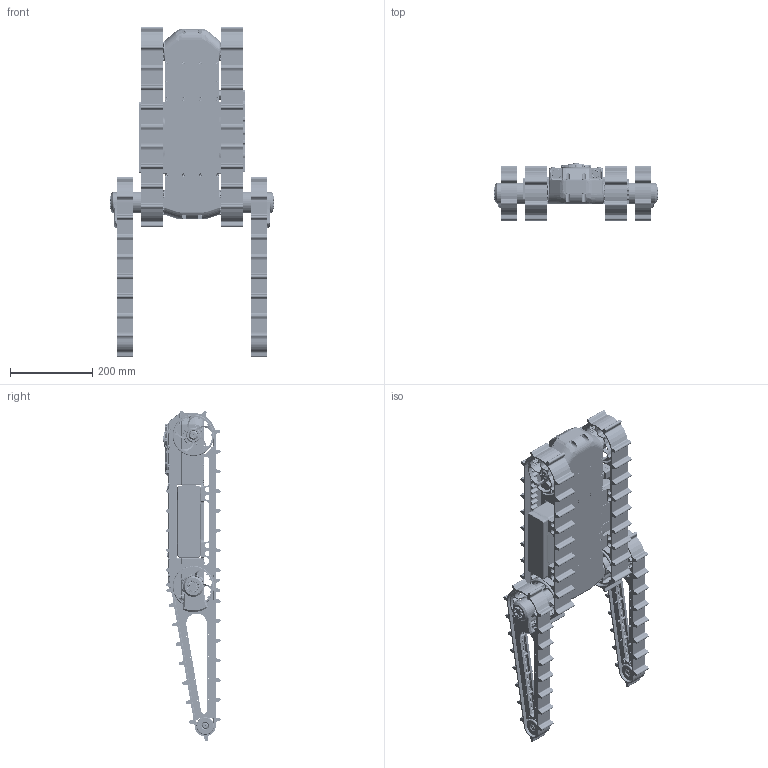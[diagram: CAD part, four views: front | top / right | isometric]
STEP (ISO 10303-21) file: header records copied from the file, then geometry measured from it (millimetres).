
FILE_DESCRIPTION (( 'STEP AP203' ), '1' );
FILE_NAME ('Áàçà ñ ôëèïïåðàìè.STEP', '2015-08-19T09:37:36', ( '' ), ( '' ), 'SwSTEP 2.0', 'SolidWorks 2015', '' );
FILE_SCHEMA (( 'CONFIG_CONTROL_DESIGN' ));
Products named in the file (1): Áàçà ñ ôëèïïåðàìè
Bounding box: 401 x 139.1 x 803.74 mm (x, y, z)
Volume: 9129226.1 mm3; surface area: 1631743 mm2
Topology: 285 solids, 407 shells, 15364 faces, 37053 edges, 22530 vertices
Faces by surface type: plane 6275, cylinder 5527, cone 2381, torus 1062, bspline 115, sphere 4
Entity records: 460281 total; most frequent: CARTESIAN_POINT 93676, DIRECTION 82104, ORIENTED_EDGE 72994, EDGE_CURVE 36497, AXIS2_PLACEMENT_3D 31752, VERTEX_POINT 22530, LINE 18600, VECTOR 18600
